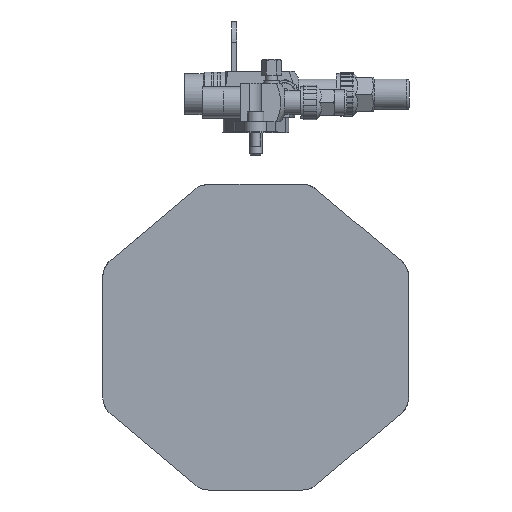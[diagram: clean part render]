
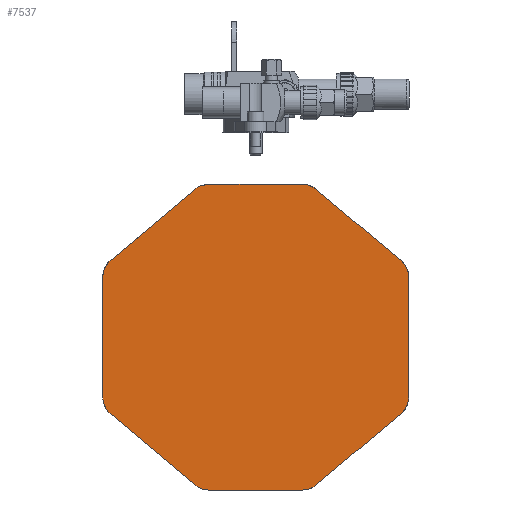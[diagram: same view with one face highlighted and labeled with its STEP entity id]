
A CAD part, left-side view. The second image highlights one B-rep face of the part: STEP entity #7537.
In plain terms, the highlighted planar face has unit normal (-1, 0, 0) as drawn and (0, 0, 1) by its records, which use the part's own axes.
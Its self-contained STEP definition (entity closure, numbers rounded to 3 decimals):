
#5903=FACE_OUTER_BOUND('',#9116,.T.);
#6434=CIRCLE('',#19249,16.);
#6435=CIRCLE('',#19250,16.);
#6436=CIRCLE('',#19251,16.);
#6437=CIRCLE('',#19252,16.);
#6438=CIRCLE('',#19253,16.);
#6439=CIRCLE('',#19254,16.);
#6440=CIRCLE('',#19255,16.);
#6441=CIRCLE('',#19256,16.);
#7537=ADVANCED_FACE('',(#5903),#8175,.F.);
#8175=PLANE('',#19257);
#9116=EDGE_LOOP('',(#11384,#11385,#11386,#11387,#11388,#11389,#11390,#11391,
#11392,#11393,#11394,#11395,#11396,#11397,#11398,#11399));
#11384=ORIENTED_EDGE('',*,*,#15732,.T.);
#11385=ORIENTED_EDGE('',*,*,#15733,.T.);
#11386=ORIENTED_EDGE('',*,*,#15734,.T.);
#11387=ORIENTED_EDGE('',*,*,#15735,.T.);
#11388=ORIENTED_EDGE('',*,*,#15736,.T.);
#11389=ORIENTED_EDGE('',*,*,#15737,.T.);
#11390=ORIENTED_EDGE('',*,*,#15738,.T.);
#11391=ORIENTED_EDGE('',*,*,#15739,.T.);
#11392=ORIENTED_EDGE('',*,*,#15740,.T.);
#11393=ORIENTED_EDGE('',*,*,#15741,.T.);
#11394=ORIENTED_EDGE('',*,*,#15742,.T.);
#11395=ORIENTED_EDGE('',*,*,#15743,.T.);
#11396=ORIENTED_EDGE('',*,*,#15744,.T.);
#11397=ORIENTED_EDGE('',*,*,#15745,.T.);
#11398=ORIENTED_EDGE('',*,*,#15746,.T.);
#11399=ORIENTED_EDGE('',*,*,#15747,.T.);
#14142=VERTEX_POINT('',#26529);
#14143=VERTEX_POINT('',#26530);
#14144=VERTEX_POINT('',#26532);
#14145=VERTEX_POINT('',#26534);
#14146=VERTEX_POINT('',#26536);
#14147=VERTEX_POINT('',#26538);
#14148=VERTEX_POINT('',#26540);
#14149=VERTEX_POINT('',#26542);
#14150=VERTEX_POINT('',#26544);
#14151=VERTEX_POINT('',#26546);
#14152=VERTEX_POINT('',#26548);
#14153=VERTEX_POINT('',#26550);
#14154=VERTEX_POINT('',#26552);
#14155=VERTEX_POINT('',#26554);
#14156=VERTEX_POINT('',#26556);
#14157=VERTEX_POINT('',#26558);
#15732=EDGE_CURVE('',#14142,#14143,#17236,.T.);
#15733=EDGE_CURVE('',#14143,#14144,#6434,.T.);
#15734=EDGE_CURVE('',#14144,#14145,#17237,.T.);
#15735=EDGE_CURVE('',#14145,#14146,#6435,.T.);
#15736=EDGE_CURVE('',#14146,#14147,#17238,.T.);
#15737=EDGE_CURVE('',#14147,#14148,#6436,.T.);
#15738=EDGE_CURVE('',#14148,#14149,#17239,.T.);
#15739=EDGE_CURVE('',#14149,#14150,#6437,.T.);
#15740=EDGE_CURVE('',#14150,#14151,#17240,.T.);
#15741=EDGE_CURVE('',#14151,#14152,#6438,.T.);
#15742=EDGE_CURVE('',#14152,#14153,#17241,.T.);
#15743=EDGE_CURVE('',#14153,#14154,#6439,.T.);
#15744=EDGE_CURVE('',#14154,#14155,#17242,.T.);
#15745=EDGE_CURVE('',#14155,#14156,#6440,.T.);
#15746=EDGE_CURVE('',#14156,#14157,#17243,.T.);
#15747=EDGE_CURVE('',#14157,#14142,#6441,.T.);
#17236=LINE('',#26528,#18204);
#17237=LINE('',#26533,#18205);
#17238=LINE('',#26537,#18206);
#17239=LINE('',#26541,#18207);
#17240=LINE('',#26545,#18208);
#17241=LINE('',#26549,#18209);
#17242=LINE('',#26553,#18210);
#17243=LINE('',#26557,#18211);
#18204=VECTOR('',#21513,1.);
#18205=VECTOR('',#21516,1.);
#18206=VECTOR('',#21519,1.);
#18207=VECTOR('',#21522,1.);
#18208=VECTOR('',#21525,1.);
#18209=VECTOR('',#21528,1.);
#18210=VECTOR('',#21531,1.);
#18211=VECTOR('',#21534,1.);
#19249=AXIS2_PLACEMENT_3D('',#26531,#21514,#21515);
#19250=AXIS2_PLACEMENT_3D('',#26535,#21517,#21518);
#19251=AXIS2_PLACEMENT_3D('',#26539,#21520,#21521);
#19252=AXIS2_PLACEMENT_3D('',#26543,#21523,#21524);
#19253=AXIS2_PLACEMENT_3D('',#26547,#21526,#21527);
#19254=AXIS2_PLACEMENT_3D('',#26551,#21529,#21530);
#19255=AXIS2_PLACEMENT_3D('',#26555,#21532,#21533);
#19256=AXIS2_PLACEMENT_3D('',#26559,#21535,#21536);
#19257=AXIS2_PLACEMENT_3D('',#26560,#21537,#21538);
#21513=DIRECTION('',(0.,-1.,0.));
#21514=DIRECTION('',(0.,0.,1.));
#21515=DIRECTION('',(-1.,0.,0.));
#21516=DIRECTION('',(0.766,-0.643,0.));
#21517=DIRECTION('',(0.,0.,1.));
#21518=DIRECTION('',(-1.,0.,0.));
#21519=DIRECTION('',(1.,0.,0.));
#21520=DIRECTION('',(0.,0.,1.));
#21521=DIRECTION('',(-1.,0.,0.));
#21522=DIRECTION('',(0.766,0.643,0.));
#21523=DIRECTION('',(0.,0.,1.));
#21524=DIRECTION('',(-1.,0.,0.));
#21525=DIRECTION('',(0.,1.,0.));
#21526=DIRECTION('',(0.,0.,1.));
#21527=DIRECTION('',(-1.,0.,0.));
#21528=DIRECTION('',(-0.766,0.643,0.));
#21529=DIRECTION('',(0.,0.,1.));
#21530=DIRECTION('',(-1.,0.,0.));
#21531=DIRECTION('',(-1.,0.,0.));
#21532=DIRECTION('',(0.,0.,1.));
#21533=DIRECTION('',(-1.,0.,0.));
#21534=DIRECTION('',(-0.766,-0.643,0.));
#21535=DIRECTION('',(0.,0.,1.));
#21536=DIRECTION('',(-1.,0.,0.));
#21537=DIRECTION('',(0.,0.,-1.));
#21538=DIRECTION('',(-1.,0.,0.));
#26528=CARTESIAN_POINT('',(-120.6,0.,73.38));
#26529=CARTESIAN_POINT('',(-120.6,47.941,73.38));
#26530=CARTESIAN_POINT('',(-120.6,-47.941,73.38));
#26531=CARTESIAN_POINT('',(-104.6,-47.941,73.38));
#26532=CARTESIAN_POINT('',(-114.885,-60.198,73.38));
#26533=CARTESIAN_POINT('',(-120.6,-55.402,73.38));
#26534=CARTESIAN_POINT('',(-47.361,-116.857,73.38));
#26535=CARTESIAN_POINT('',(-37.076,-104.6,73.38));
#26536=CARTESIAN_POINT('',(-37.076,-120.6,73.38));
#26537=CARTESIAN_POINT('',(0.,-120.6,73.38));
#26538=CARTESIAN_POINT('',(37.076,-120.6,73.38));
#26539=CARTESIAN_POINT('',(37.076,-104.6,73.38));
#26540=CARTESIAN_POINT('',(47.361,-116.857,73.38));
#26541=CARTESIAN_POINT('',(42.9,-120.6,73.38));
#26542=CARTESIAN_POINT('',(114.885,-60.198,73.38));
#26543=CARTESIAN_POINT('',(104.6,-47.941,73.38));
#26544=CARTESIAN_POINT('',(120.6,-47.941,73.38));
#26545=CARTESIAN_POINT('',(120.6,0.,73.38));
#26546=CARTESIAN_POINT('',(120.6,47.941,73.38));
#26547=CARTESIAN_POINT('',(104.6,47.941,73.38));
#26548=CARTESIAN_POINT('',(114.885,60.198,73.38));
#26549=CARTESIAN_POINT('',(120.6,55.402,73.38));
#26550=CARTESIAN_POINT('',(47.361,116.857,73.38));
#26551=CARTESIAN_POINT('',(37.076,104.6,73.38));
#26552=CARTESIAN_POINT('',(37.076,120.6,73.38));
#26553=CARTESIAN_POINT('',(0.,120.6,73.38));
#26554=CARTESIAN_POINT('',(-37.076,120.6,73.38));
#26555=CARTESIAN_POINT('',(-37.076,104.6,73.38));
#26556=CARTESIAN_POINT('',(-47.361,116.857,73.38));
#26557=CARTESIAN_POINT('',(-42.9,120.6,73.38));
#26558=CARTESIAN_POINT('',(-114.885,60.198,73.38));
#26559=CARTESIAN_POINT('',(-104.6,47.941,73.38));
#26560=CARTESIAN_POINT('',(0.,-107.5,73.38));
